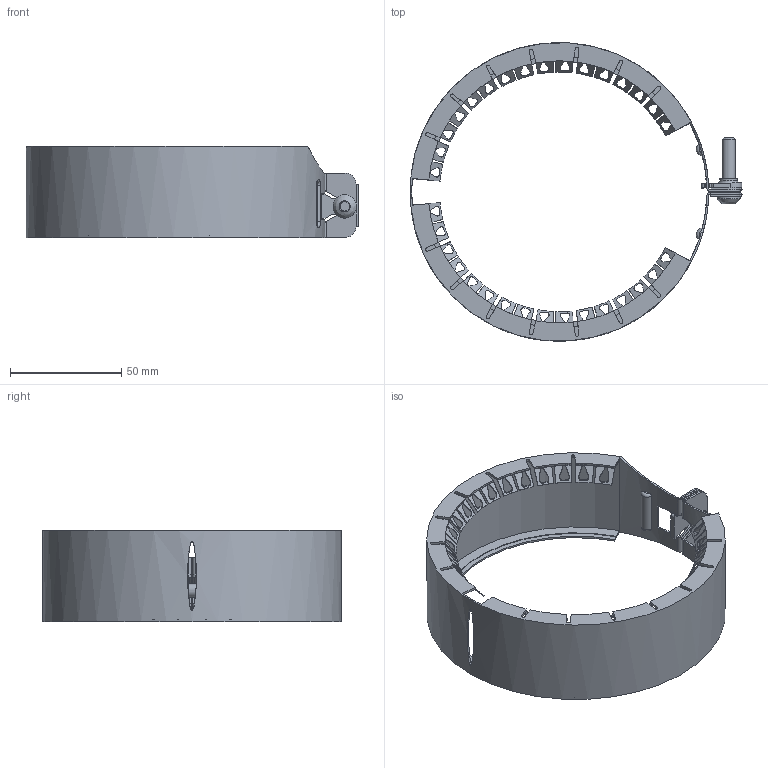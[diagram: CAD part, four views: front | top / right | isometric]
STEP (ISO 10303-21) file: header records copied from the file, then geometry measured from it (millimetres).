
FILE_DESCRIPTION(/* description */ (''),/* implementation_level */ '2;1');
FILE_NAME(/* name */ 'H:\Geberit-Teile\Export\Haltekralle\stp\390508.stp',/* time_stamp */ '2016-03-31T11:29:23+02:00',/* author */ ('seihe2'),/* organization */ (''),/* preprocessor_version */ 'ST-DEVELOPER v15.2',/* originating_system */ 'Autodesk Inventor 2014',/* authorisation */ '');
FILE_SCHEMA (('AUTOMOTIVE_DESIGN { 1 0 10303 214 3 1 1 }'));
Length unit declared in the file: millimetre
Products named in the file (1): 390508
Bounding box: 149.5 x 134.49 x 41 mm (x, y, z)
Volume: 25548.5 mm3; surface area: 76027.9 mm2
Topology: 1 solids, 1 shells, 553 faces, 1664 edges, 1077 vertices
Faces by surface type: plane 291, cylinder 166, cone 81, bspline 10, torus 5
Full cylindrical faces by diameter (mm): 6 x1, 8 x1, 10.5 x1
Entity records: 21449 total; most frequent: CARTESIAN_POINT 6689, ORIENTED_EDGE 3308, DIRECTION 2707, EDGE_CURVE 1654, VERTEX_POINT 1073, AXIS2_PLACEMENT_3D 947, LINE 813, VECTOR 813
